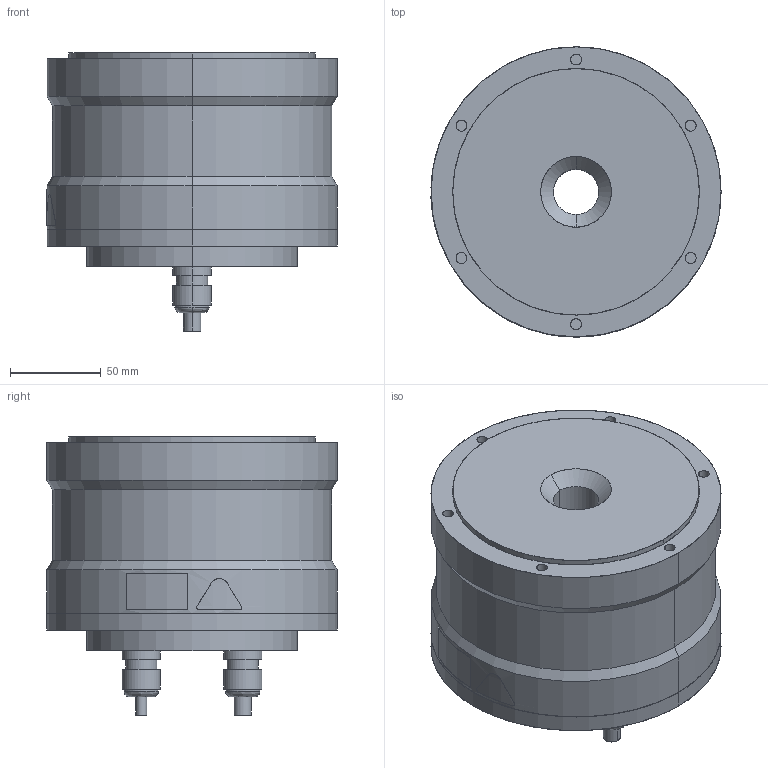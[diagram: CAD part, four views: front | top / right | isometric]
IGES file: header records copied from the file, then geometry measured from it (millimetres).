
Start section: SolidWorks IGES file using analytic representation for surfaces
Bounding box: 160.06 x 160 x 153.4 mm (x, y, z)
Surface area: 115140.1 mm2 (no closed solid volume)
Topology: 0 solids, 0 shells, 211 faces, 4654 edges, 4654 vertices
Faces by surface type: revolution 128, bspline 83
